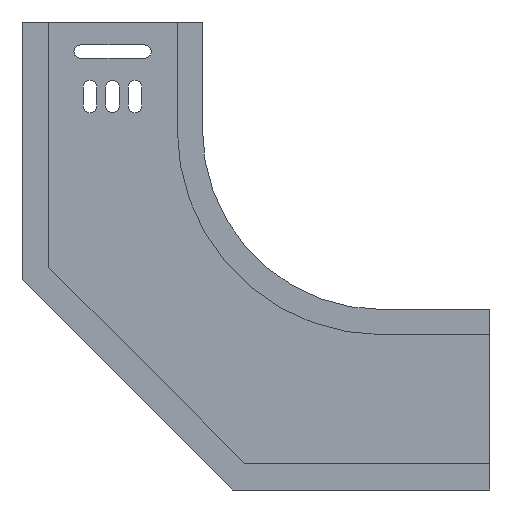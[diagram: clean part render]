
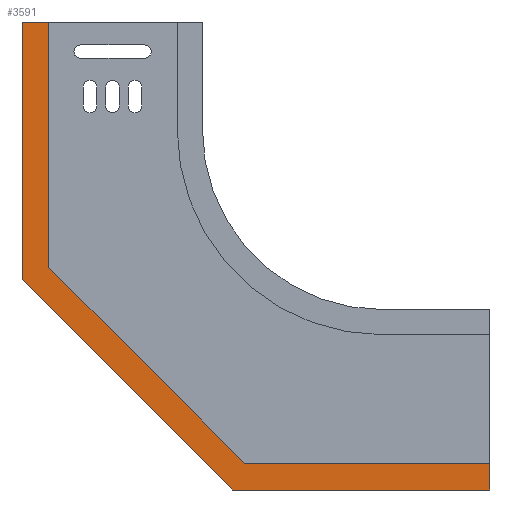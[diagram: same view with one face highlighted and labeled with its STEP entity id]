
A CAD part, front view. The second image highlights one B-rep face of the part: STEP entity #3591.
In plain terms, the highlighted planar face has unit normal (0, -1, 0).
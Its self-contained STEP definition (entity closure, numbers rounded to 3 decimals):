
#5 = CARTESIAN_POINT ( 'NONE',  ( -207.322, -1., 260.38 ) ) ;
#41 = DIRECTION ( 'NONE',  ( 1., 0., 0. ) ) ;
#71 = VECTOR ( 'NONE', #1586, 1000. ) ;
#91 = LINE ( 'NONE', #2798, #3118 ) ;
#94 = VERTEX_POINT ( 'NONE', #4152 ) ;
#227 = CARTESIAN_POINT ( 'NONE',  ( 0., -1., 15. ) ) ;
#354 = VECTOR ( 'NONE', #3800, 1000. ) ;
#355 = VECTOR ( 'NONE', #4200, 1000. ) ;
#377 = CARTESIAN_POINT ( 'NONE',  ( -201.74, -1., 0. ) ) ;
#380 = CARTESIAN_POINT ( 'NONE',  ( -245.38, -1., 123.593 ) ) ;
#399 = ORIENTED_EDGE ( 'NONE', *, *, #2941, .F. ) ;
#407 = ORIENTED_EDGE ( 'NONE', *, *, #3005, .T. ) ;
#409 = CARTESIAN_POINT ( 'NONE',  ( -201.74, -1., 15. ) ) ;
#648 = LINE ( 'NONE', #1633, #71 ) ;
#676 = ORIENTED_EDGE ( 'NONE', *, *, #4221, .F. ) ;
#677 = VERTEX_POINT ( 'NONE', #3925 ) ;
#689 = LINE ( 'NONE', #1673, #2264 ) ;
#713 = VECTOR ( 'NONE', #41, 1000. ) ;
#737 = CARTESIAN_POINT ( 'NONE',  ( 0., -1., 15. ) ) ;
#749 = PLANE ( 'NONE',  #2630 ) ;
#757 = LINE ( 'NONE', #380, #4316 ) ;
#815 = FACE_OUTER_BOUND ( 'NONE', #3409, .T. ) ;
#1035 = CARTESIAN_POINT ( 'NONE',  ( -143., -1., 0. ) ) ;
#1309 = EDGE_CURVE ( 'NONE', #1518, #2262, #757, .T. ) ;
#1518 = VERTEX_POINT ( 'NONE', #2030 ) ;
#1586 = DIRECTION ( 'NONE',  ( -0.707, 0., 0.707 ) ) ;
#1593 = ORIENTED_EDGE ( 'NONE', *, *, #4282, .F. ) ;
#1633 = CARTESIAN_POINT ( 'NONE',  ( -136.787, -1., 15. ) ) ;
#1673 = CARTESIAN_POINT ( 'NONE',  ( -143., -1., 0. ) ) ;
#1677 = DIRECTION ( 'NONE',  ( -1., 0., 0. ) ) ;
#1726 = LINE ( 'NONE', #5, #2413 ) ;
#2030 = CARTESIAN_POINT ( 'NONE',  ( -245.38, -1., 123.593 ) ) ;
#2083 = CARTESIAN_POINT ( 'NONE',  ( -136.787, -1., 15. ) ) ;
#2154 = ORIENTED_EDGE ( 'NONE', *, *, #1309, .T. ) ;
#2161 = DIRECTION ( 'NONE',  ( 0., 0., -1. ) ) ;
#2262 = VERTEX_POINT ( 'NONE', #3837 ) ;
#2264 = VECTOR ( 'NONE', #3106, 1000. ) ;
#2398 = EDGE_CURVE ( 'NONE', #2262, #677, #1726, .T. ) ;
#2413 = VECTOR ( 'NONE', #1677, 1000. ) ;
#2554 = LINE ( 'NONE', #2797, #355 ) ;
#2630 = AXIS2_PLACEMENT_3D ( 'NONE', #409, #3451, #2161 ) ;
#2714 = ORIENTED_EDGE ( 'NONE', *, *, #3021, .F. ) ;
#2789 = EDGE_CURVE ( 'NONE', #4322, #1518, #648, .T. ) ;
#2797 = CARTESIAN_POINT ( 'NONE',  ( -201.74, -1., 15. ) ) ;
#2798 = CARTESIAN_POINT ( 'NONE',  ( -260.38, -1., 117.38 ) ) ;
#2941 = EDGE_CURVE ( 'NONE', #3851, #4276, #689, .T. ) ;
#3005 = EDGE_CURVE ( 'NONE', #3851, #94, #3417, .T. ) ;
#3021 = EDGE_CURVE ( 'NONE', #4322, #3660, #2554, .T. ) ;
#3106 = DIRECTION ( 'NONE',  ( -0.707, 0., 0.707 ) ) ;
#3118 = VECTOR ( 'NONE', #3418, 1000. ) ;
#3133 = CARTESIAN_POINT ( 'NONE',  ( -260.38, -1., 117.38 ) ) ;
#3409 = EDGE_LOOP ( 'NONE', ( #2714, #4379, #2154, #3558, #1593, #399, #407, #676 ) ) ;
#3417 = LINE ( 'NONE', #377, #713 ) ;
#3418 = DIRECTION ( 'NONE',  ( 0., 0., 1. ) ) ;
#3451 = DIRECTION ( 'NONE',  ( 0., -1., 0. ) ) ;
#3458 = LINE ( 'NONE', #737, #354 ) ;
#3558 = ORIENTED_EDGE ( 'NONE', *, *, #2398, .T. ) ;
#3591 = ADVANCED_FACE ( 'NONE', ( #815 ), #749, .T. ) ;
#3660 = VERTEX_POINT ( 'NONE', #227 ) ;
#3800 = DIRECTION ( 'NONE',  ( 0., 0., -1. ) ) ;
#3837 = CARTESIAN_POINT ( 'NONE',  ( -245.38, -1., 260.38 ) ) ;
#3851 = VERTEX_POINT ( 'NONE', #1035 ) ;
#3925 = CARTESIAN_POINT ( 'NONE',  ( -260.38, -1., 260.38 ) ) ;
#4074 = DIRECTION ( 'NONE',  ( 0., 0., 1. ) ) ;
#4152 = CARTESIAN_POINT ( 'NONE',  ( 0., -1., 0. ) ) ;
#4200 = DIRECTION ( 'NONE',  ( 1., 0., 0. ) ) ;
#4221 = EDGE_CURVE ( 'NONE', #3660, #94, #3458, .T. ) ;
#4276 = VERTEX_POINT ( 'NONE', #3133 ) ;
#4282 = EDGE_CURVE ( 'NONE', #4276, #677, #91, .T. ) ;
#4316 = VECTOR ( 'NONE', #4074, 1000. ) ;
#4322 = VERTEX_POINT ( 'NONE', #2083 ) ;
#4379 = ORIENTED_EDGE ( 'NONE', *, *, #2789, .T. ) ;
